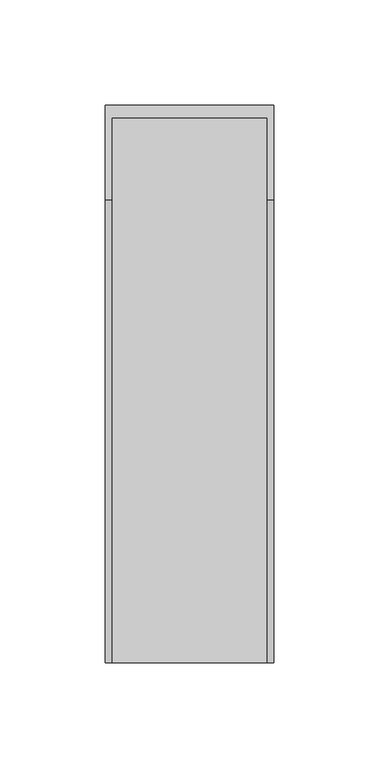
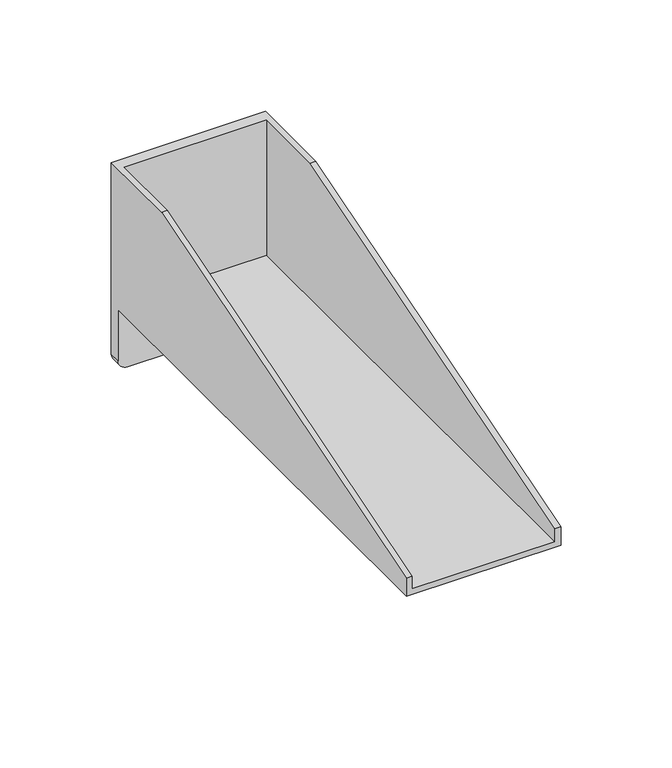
"""IFC4 building model written with IfcOpenShell, lengths in millimetres: proxy geometry, SHG_Support-Basorplast : Basorplast SHG 200."""

from ifc_helpers import new_model, si_unit, frame, origin, place, context, project, spatial, circle_curve, source, transform, mapped, element, save
from ifc_brep_helpers import plane_surface, cylinder_surface, advanced_brep


def generic_models_7da3a50a(model_context):
    return source(origin(), model_context, "Body", "AdvancedBrep", [
        advanced_brep(
        [(-40.0, 87.5, 77.0), (-37.0, 87.5, 77.0), (-37.0, 126.5, 77.0), (37.0, 126.5, 77.0), (37.0, 87.5, 77.0), (40.0, 87.5, 77.0), (40.0, 132.5, 77.0), (-40.0, 132.5, 77.0), (35.0, 126.5, -33.0), (-35.0, 126.5, -33.0), (-35.0, 132.5, -33.0), (35.0, 132.5, -33.0), (-40.0, 132.5, -28.0), (40.0, 132.5, -28.0), (-40.0, 126.5, -28.0), (-40.0, 126.5, 0.0), (-40.0, -132.5, 0.0), (-40.0, -132.5, 10.0), (-37.0, 126.5, 3.0), (37.0, 126.5, 3.0), (40.0, 126.5, -28.0), (40.0, 126.5, 0.0), (40.0, -132.5, 10.0), (40.0, -132.5, 0.0), (37.0, -132.5, 10.0), (37.0, -132.5, 3.0), (-37.0, -132.5, 3.0), (-37.0, -132.5, 10.0)],
        [
            (0, 1),
            (1, 2),
            (2, 3),
            (3, 4),
            (4, 5),
            (5, 6),
            (6, 7),
            (7, 0),
            (8, 9),
            (9, 10),
            (10, 11),
            (11, 8),
            (10, 12, circle_curve(frame((-35.0, 132.5, -28.0), z_axis=(0.0, 1.0, 0.0), x_axis=(1.0, 0.0, 0.0)), 5.0)),
            (12, 7),
            (6, 13),
            (13, 11, circle_curve(frame((35.0, 132.5, -28.0), z_axis=(0.0, 1.0, 0.0), x_axis=(1.0, 0.0, 0.0)), 5.0)),
            (12, 14),
            (14, 15),
            (15, 16),
            (16, 17),
            (17, 0),
            (2, 18),
            (18, 19),
            (19, 3),
            (8, 20, circle_curve(frame((35.0, 126.5, -28.0), z_axis=(0.0, -1.0, 0.0), x_axis=(1.0, 0.0, 0.0)), 5.0)),
            (20, 21),
            (21, 15),
            (14, 9, circle_curve(frame((-35.0, 126.5, -28.0), z_axis=(0.0, -1.0, 0.0), x_axis=(1.0, 0.0, 0.0)), 5.0)),
            (5, 22),
            (22, 23),
            (23, 21),
            (20, 13),
            (16, 23),
            (22, 24),
            (24, 25),
            (25, 26),
            (26, 27),
            (27, 17),
            (4, 24),
            (19, 25),
            (18, 26),
            (1, 27),
        ],
        [
            plane_surface(frame((-40.0, 132.5, 77.0), z_axis=(0.0, 0.0, 1.0), x_axis=(-1.0, 0.0, 0.0))),
            plane_surface(frame((-40.0, 132.5, -33.0), z_axis=(0.0, 0.0, -1.0), x_axis=(1.0, 0.0, 0.0))),
            plane_surface(frame((40.0, 132.5, 77.0), z_axis=(0.0, 1.0, 0.0), x_axis=(0.0, 0.0, -1.0))),
            plane_surface(frame((-40.0, 132.5, 77.0), z_axis=(-1.0, 0.0, 0.0), x_axis=(0.0, 0.0, -1.0))),
            plane_surface(frame((-40.0, 126.5, 77.0), z_axis=(0.0, -1.0, 0.0), x_axis=(0.0, 0.0, -1.0))),
            plane_surface(frame((40.0, 126.5, 77.0), z_axis=(1.0, 0.0, 0.0), x_axis=(0.0, 0.0, -1.0))),
            cylinder_surface(frame((35.0, 400.0, -28.0), z_axis=(0.0, 1.0, 0.0), x_axis=(1.0, 0.0, 0.0)), 5.0),
            cylinder_surface(frame((-35.0, 400.0, -28.0), z_axis=(0.0, 1.0, 0.0), x_axis=(1.0, 0.0, 0.0)), 5.0),
            plane_surface(frame((0.0, -132.5, 5.75), z_axis=(0.0, -1.0, 0.0), x_axis=(0.0, 0.0, 1.0))),
            plane_surface(frame((0.0, 87.5, 0.0), z_axis=(0.0, 0.0, -1.0), x_axis=(1.0, 0.0, 0.0))),
            plane_surface(frame((38.5, 87.5, 77.0), z_axis=(0.0, -0.2913346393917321, 0.9566212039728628), x_axis=(-1.0, 0.0, 0.0))),
            plane_surface(frame((37.0, 87.5, 40.0), z_axis=(-1.0, 0.0, 0.0), x_axis=(0.0, 0.0, -1.0))),
            plane_surface(frame((0.0, 87.5, 3.0), z_axis=(0.0, 0.0, 1.0), x_axis=(-1.0, 0.0, 0.0))),
            plane_surface(frame((-37.0, 87.5, 40.0), z_axis=(1.0, 0.0, 0.0), x_axis=(0.0, 0.0, 1.0))),
            plane_surface(frame((-38.5, 87.5, 77.0), z_axis=(0.0, -0.2913346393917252, 0.9566212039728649), x_axis=(-1.0, 0.0, 0.0))),
        ],
        [
            (0, [[1, 2, 3, 4, 5, 6, 7, 8]]),
            (1, [[9, 10, 11, 12]]),
            (2, [[-11, 13, 14, -7, 15, 16]]),
            (3, [[-8, -14, 17, 18, 19, 20, 21]]),
            (4, [[-3, 22, 23, 24]]),
            (4, [[-9, 25, 26, 27, -18, 28]]),
            (5, [[-6, 29, 30, 31, -26, 32, -15]]),
            (6, [[-12, -16, -32, -25]]),
            (7, [[-10, -28, -17, -13]]),
            (8, [[-20, 33, -30, 34, 35, 36, 37, 38]]),
            (9, [[-31, -33, -19, -27]]),
            (10, [[-34, -29, -5, 39]]),
            (11, [[-35, -39, -4, -24, 40]]),
            (12, [[-36, -40, -23, 41]]),
            (13, [[-37, -41, -22, -2, 42]]),
            (14, [[-38, -42, -1, -21]]),
        ],
    ),
    ])


if __name__ == "__main__":
    model = new_model("IFC4")
    model_context = context("Model", 3, world=origin())
    ifc_project = project(units=[si_unit("LENGTHUNIT", "METRE", prefix="MILLI")], contexts=[model_context])
    site = spatial("IfcSite", under=ifc_project)
    building = spatial("IfcBuilding", under=site)
    placement = place(None, origin())
    generic_models_shape = generic_models_7da3a50a(model_context)
    element("IfcBuildingElementProxy", 1, Name="SHG_Support-Basorplast : Basorplast SHG 200", ObjectType="SHG_Support-Basorplast : Basorplast SHG 200", at=placement, inside=building, context=model_context, shape_type="MappedRepresentation", body=[
        mapped(generic_models_shape, transform((0.0, 0.0, 0.0), x_axis=(1.0, 0.0, 0.0), y_axis=(0.0, 1.0, 0.0), z_axis=(0.0, 0.0, 1.0))),
    ])
    save(model, "model.ifc")
